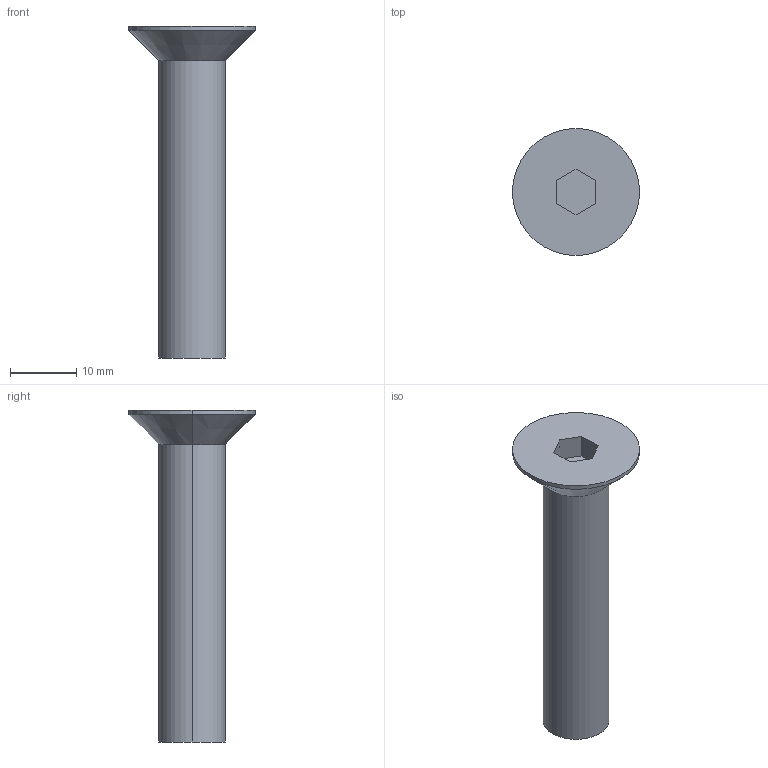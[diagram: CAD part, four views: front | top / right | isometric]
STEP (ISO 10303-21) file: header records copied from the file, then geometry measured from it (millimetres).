
FILE_DESCRIPTION (( 'STEP AP214' ), '1' );
FILE_NAME ('COUNTERSHUNK_HEAD_BOLT_M10(L=045).STEP', '2021-09-18T10:22:18', ( '' ), ( '' ), 'SwSTEP 2.0', 'SolidWorks 2018', '' );
FILE_SCHEMA (( 'AUTOMOTIVE_DESIGN' ));
Length unit declared in the file: millimetre
Products named in the file (1): COUNTERSHUNK_HEAD_BOLT_M10(L=045)
Bounding box: 19.22 x 19.22 x 50.22 mm (x, y, z)
Volume: 4397.5 mm3; surface area: 2193.3 mm2
Topology: 1 solids, 1 shells, 15 faces, 32 edges, 20 vertices
Faces by surface type: plane 9, cylinder 4, cone 2
Entity records: 436 total; most frequent: DIRECTION 72, CARTESIAN_POINT 68, ORIENTED_EDGE 64, EDGE_CURVE 32, AXIS2_PLACEMENT_3D 24, VECTOR 24, LINE 24, VERTEX_POINT 20
